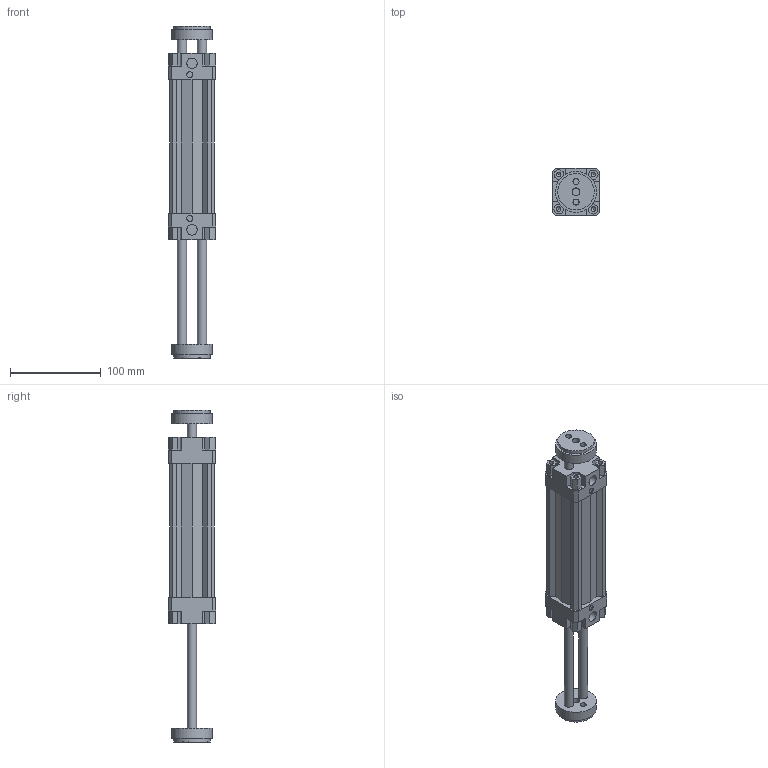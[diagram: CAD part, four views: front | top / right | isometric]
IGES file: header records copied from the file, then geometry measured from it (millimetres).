
Global section: file name: 132#_040_0100_06; native system: Autodesk Inventor 2014; preprocessor: unknown; author: A. Manieri; date: 20161006.154817; units: millimetre
Bounding box: 52 x 52 x 365 mm (x, y, z)
Volume: 377265.3 mm3; surface area: 117762.5 mm2
Topology: 2 solids, 2 shells, 190 faces, 518 edges, 354 vertices
Faces by surface type: bspline 190
